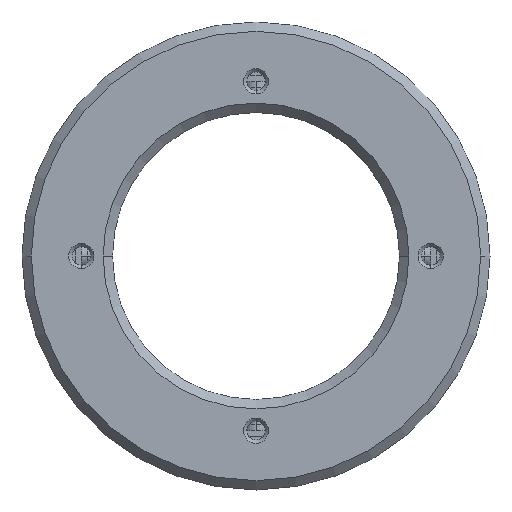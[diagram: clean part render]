
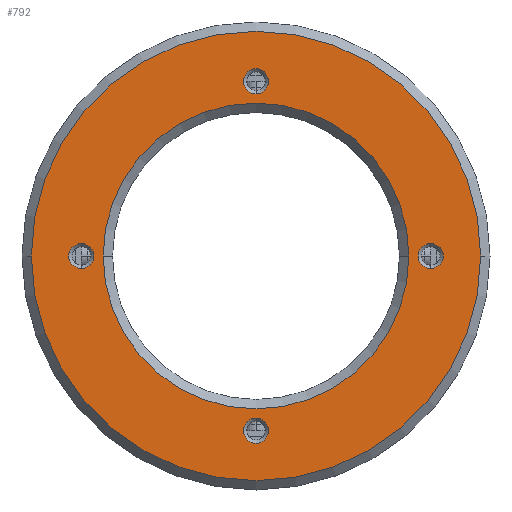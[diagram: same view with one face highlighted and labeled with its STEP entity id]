
A CAD part, front view. The second image highlights one B-rep face of the part: STEP entity #792.
In plain terms, the highlighted planar face has unit normal (0, -1, 0).
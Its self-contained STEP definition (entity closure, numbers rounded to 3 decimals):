
#135=CARTESIAN_POINT('',(0.,0.,0.));
#136=DIRECTION('',(0.,1.,0.));
#137=DIRECTION('',(1.,0.,0.));
#138=AXIS2_PLACEMENT_3D('',#135,#136,#137);
#140=CARTESIAN_POINT('',(0.,0.,
0.));
#141=DIRECTION('',(0.,1.,0.));
#142=DIRECTION('',(-1.,0.,0.));
#143=AXIS2_PLACEMENT_3D('',#140,#141,#142);
#145=CARTESIAN_POINT('',(0.,0.,0.));
#146=DIRECTION('',(0.,1.,0.));
#147=DIRECTION('',(-1.,0.,0.));
#148=AXIS2_PLACEMENT_3D('',#145,#146,#147);
#150=CARTESIAN_POINT('',(0.,0.,
0.));
#151=DIRECTION('',(0.,1.,0.));
#152=DIRECTION('',(1.,0.,0.));
#153=AXIS2_PLACEMENT_3D('',#150,#151,#152);
#155=CARTESIAN_POINT('',(28.,0.,0.));
#156=DIRECTION('',(0.,1.,0.));
#157=DIRECTION('',(0.,0.,-1.));
#158=AXIS2_PLACEMENT_3D('',#155,#156,#157);
#160=CARTESIAN_POINT('',(28.,0.,0.));
#161=DIRECTION('',(0.,1.,0.));
#162=DIRECTION('',(0.,0.,1.));
#163=AXIS2_PLACEMENT_3D('',#160,#161,#162);
#165=CARTESIAN_POINT('',(0.,0.,28.));
#166=DIRECTION('',(0.,1.,0.));
#167=DIRECTION('',(0.,0.,-1.));
#168=AXIS2_PLACEMENT_3D('',#165,#166,#167);
#170=CARTESIAN_POINT('',(0.,0.,28.));
#171=DIRECTION('',(0.,1.,0.));
#172=DIRECTION('',(0.,0.,1.));
#173=AXIS2_PLACEMENT_3D('',#170,#171,#172);
#175=CARTESIAN_POINT('',(-28.,0.,0.));
#176=DIRECTION('',(0.,1.,0.));
#177=DIRECTION('',(0.,0.,-1.));
#178=AXIS2_PLACEMENT_3D('',#175,#176,#177);
#180=CARTESIAN_POINT('',(-28.,0.,0.));
#181=DIRECTION('',(0.,1.,0.));
#182=DIRECTION('',(0.,0.,1.));
#183=AXIS2_PLACEMENT_3D('',#180,#181,#182);
#185=CARTESIAN_POINT('',(0.,0.,-28.));
#186=DIRECTION('',(0.,1.,0.));
#187=DIRECTION('',(0.,0.,1.));
#188=AXIS2_PLACEMENT_3D('',#185,#186,#187);
#190=CARTESIAN_POINT('',(0.,0.,-28.));
#191=DIRECTION('',(0.,1.,0.));
#192=DIRECTION('',(0.,0.,-1.));
#193=AXIS2_PLACEMENT_3D('',#190,#191,#192);
#476=CARTESIAN_POINT('',(36.,0.,0.));
#477=CARTESIAN_POINT('',(-36.,0.,
0.));
#478=VERTEX_POINT('',#476);
#479=VERTEX_POINT('',#477);
#480=CARTESIAN_POINT('',(-24.5,0.,0.));
#481=CARTESIAN_POINT('',(24.5,0.,0.));
#482=VERTEX_POINT('',#480);
#483=VERTEX_POINT('',#481);
#504=CARTESIAN_POINT('',(28.,0.,-2.));
#505=CARTESIAN_POINT('',(28.,0.,2.));
#506=VERTEX_POINT('',#504);
#507=VERTEX_POINT('',#505);
#512=CARTESIAN_POINT('',(0.,0.,26.));
#513=CARTESIAN_POINT('',(0.,0.,30.));
#514=VERTEX_POINT('',#512);
#515=VERTEX_POINT('',#513);
#520=CARTESIAN_POINT('',(-28.,0.,-2.));
#521=CARTESIAN_POINT('',(-28.,0.,2.));
#522=VERTEX_POINT('',#520);
#523=VERTEX_POINT('',#521);
#528=CARTESIAN_POINT('',(0.,0.,-26.));
#529=CARTESIAN_POINT('',(0.,0.,-30.));
#530=VERTEX_POINT('',#528);
#531=VERTEX_POINT('',#529);
#752=CARTESIAN_POINT('',(0.,0.,0.));
#753=DIRECTION('',(0.,1.,0.));
#754=DIRECTION('',(1.,0.,0.));
#755=AXIS2_PLACEMENT_3D('',#752,#753,#754);
#756=PLANE('',#755);
#758=ORIENTED_EDGE('',*,*,#757,.T.);
#760=ORIENTED_EDGE('',*,*,#759,.T.);
#761=EDGE_LOOP('',(#758,#760));
#762=FACE_OUTER_BOUND('',#761,.F.);
#764=ORIENTED_EDGE('',*,*,#763,.F.);
#766=ORIENTED_EDGE('',*,*,#765,.F.);
#767=EDGE_LOOP('',(#764,#766));
#768=FACE_BOUND('',#767,.F.);
#770=ORIENTED_EDGE('',*,*,#769,.F.);
#771=ORIENTED_EDGE('',*,*,#742,.F.);
#772=EDGE_LOOP('',(#770,#771));
#773=FACE_BOUND('',#772,.F.);
#775=ORIENTED_EDGE('',*,*,#774,.F.);
#777=ORIENTED_EDGE('',*,*,#776,.F.);
#778=EDGE_LOOP('',(#775,#777));
#779=FACE_BOUND('',#778,.F.);
#781=ORIENTED_EDGE('',*,*,#780,.F.);
#783=ORIENTED_EDGE('',*,*,#782,.F.);
#784=EDGE_LOOP('',(#781,#783));
#785=FACE_BOUND('',#784,.F.);
#787=ORIENTED_EDGE('',*,*,#786,.F.);
#789=ORIENTED_EDGE('',*,*,#788,.F.);
#790=EDGE_LOOP('',(#787,#789));
#791=FACE_BOUND('',#790,.F.);
#139=CIRCLE('',#138,36.);
#144=CIRCLE('',#143,36.);
#149=CIRCLE('',#148,24.5);
#154=CIRCLE('',#153,24.5);
#159=CIRCLE('',#158,2.);
#164=CIRCLE('',#163,2.);
#169=CIRCLE('',#168,2.);
#174=CIRCLE('',#173,2.);
#179=CIRCLE('',#178,2.);
#184=CIRCLE('',#183,2.);
#189=CIRCLE('',#188,2.);
#194=CIRCLE('',#193,2.);
#742=EDGE_CURVE('',#507,#506,#164,.T.);
#757=EDGE_CURVE('',#478,#479,#139,.T.);
#759=EDGE_CURVE('',#479,#478,#144,.T.);
#763=EDGE_CURVE('',#482,#483,#149,.T.);
#765=EDGE_CURVE('',#483,#482,#154,.T.);
#769=EDGE_CURVE('',#506,#507,#159,.T.);
#774=EDGE_CURVE('',#514,#515,#169,.T.);
#776=EDGE_CURVE('',#515,#514,#174,.T.);
#780=EDGE_CURVE('',#522,#523,#179,.T.);
#782=EDGE_CURVE('',#523,#522,#184,.T.);
#786=EDGE_CURVE('',#530,#531,#189,.T.);
#788=EDGE_CURVE('',#531,#530,#194,.T.);
#792=ADVANCED_FACE('',(#762,#768,#773,#779,#785,#791),#756,.F.);
